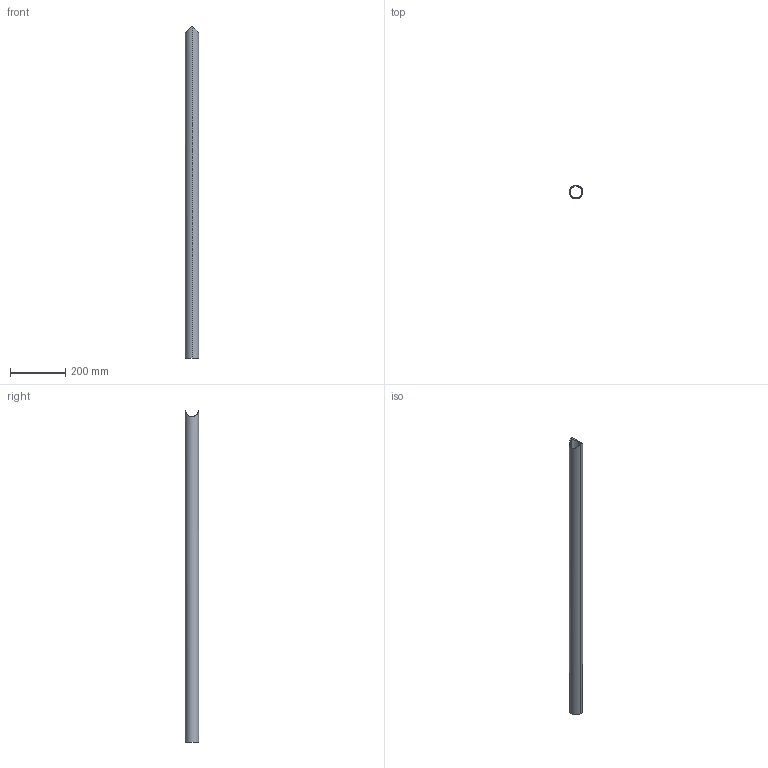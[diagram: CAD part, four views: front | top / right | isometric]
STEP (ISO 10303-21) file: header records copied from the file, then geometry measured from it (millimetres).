
FILE_DESCRIPTION (( 'STEP AP214' ), '1' );
FILE_NAME ('CCJ029-REP.347 - POTEAU GARDE CORPS AMOVIBLE A3-A4.STEP', '2025-11-04T13:00:13', ( '' ), ( '' ), 'SwSTEP 2.0', 'SolidWorks 2021', '' );
FILE_SCHEMA (( 'AUTOMOTIVE_DESIGN' ));
Length unit declared in the file: millimetre
Products named in the file (1): CCJ029-REP.347 - POTEAU GARDE CORPS AMOVIBLE A3-A4
Bounding box: 48.3 x 48.3 x 1205.85 mm (x, y, z)
Volume: 427682 mm3; surface area: 343201.7 mm2
Topology: 1 solids, 1 shells, 6 faces, 12 edges, 8 vertices
Faces by surface type: cylinder 5, plane 1
Entity records: 334 total; most frequent: CARTESIAN_POINT 173, DIRECTION 26, ORIENTED_EDGE 24, EDGE_CURVE 12, AXIS2_PLACEMENT_3D 11, EDGE_LOOP 8, VERTEX_POINT 8, FACE_OUTER_BOUND 6
